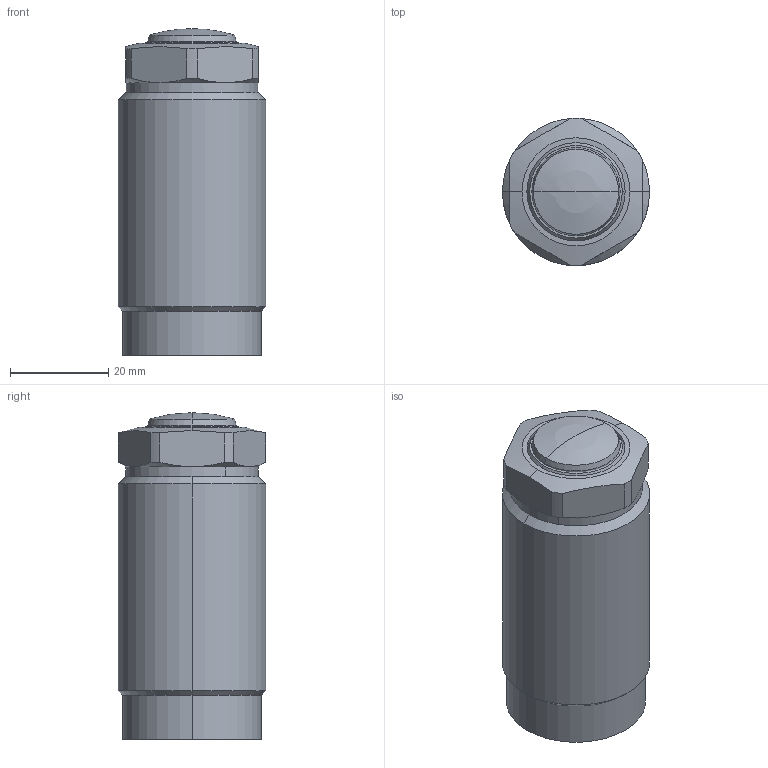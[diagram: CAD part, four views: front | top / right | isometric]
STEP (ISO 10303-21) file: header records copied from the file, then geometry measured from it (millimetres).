
FILE_DESCRIPTION((' '),'2;1');
FILE_NAME( 'TGP30-RL.x_t.stp', '2025-02-10T16:03:54', (' '), ('--- Datakit www.datakit.com---'), ' Datakit CrossCadWare V2024.1 Dec 21 2023', 'Mastercam 2025', ' ');
FILE_SCHEMA(('AUTOMOTIVE_DESIGN { 1 0 10303 214 1 1 1 1 }'));
Length unit declared in the file: millimetre
Products named in the file (1): TGP30-RL
Bounding box: 30 x 30 x 66.5 mm (x, y, z)
Volume: 48259.6 mm3; surface area: 9271.1 mm2
Topology: 2 solids, 2 shells, 65 faces, 157 edges, 99 vertices
Faces by surface type: cylinder 26, cone 18, plane 15, torus 4, sphere 2
Entity records: 2008 total; most frequent: CARTESIAN_POINT 446, DIRECTION 348, ORIENTED_EDGE 306, EDGE_CURVE 153, AXIS2_PLACEMENT_3D 149, VERTEX_POINT 99, CIRCLE 83, EDGE_LOOP 72
